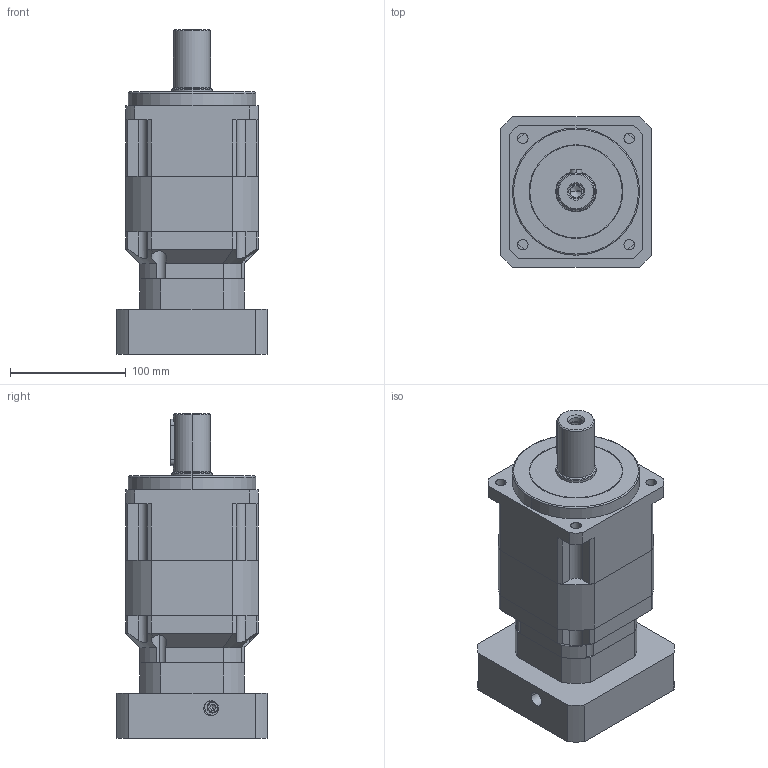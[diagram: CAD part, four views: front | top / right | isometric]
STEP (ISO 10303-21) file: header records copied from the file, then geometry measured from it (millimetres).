
FILE_DESCRIPTION (( 'STEP AP214' ), '1' );
FILE_NAME ('PGH115-L3-[ ]-P2 22-110-145-M8-T bzsc32.STEP', '2024-05-29T07:50:14', ( '' ), ( '' ), 'SwSTEP 2.0', 'SolidWorks 2021', '' );
FILE_SCHEMA (( 'AUTOMOTIVE_DESIGN' ));
Length unit declared in the file: millimetre
Products named in the file (1): PGH115-L3-[ ]-P2 22-110-145-M8-T  bzsc32
Bounding box: 130 x 130 x 281 mm (x, y, z)
Volume: 2304260.3 mm3; surface area: 284362.9 mm2
Topology: 16 solids, 16 shells, 1476 faces, 3831 edges, 2478 vertices
Faces by surface type: plane 779, bspline 310, cylinder 281, cone 84, torus 22
Entity records: 60075 total; most frequent: CARTESIAN_POINT 24944, ORIENTED_EDGE 7558, DIRECTION 6151, EDGE_CURVE 3779, VERTEX_POINT 2478, LINE 2419, VECTOR 2419, AXIS2_PLACEMENT_3D 1866
